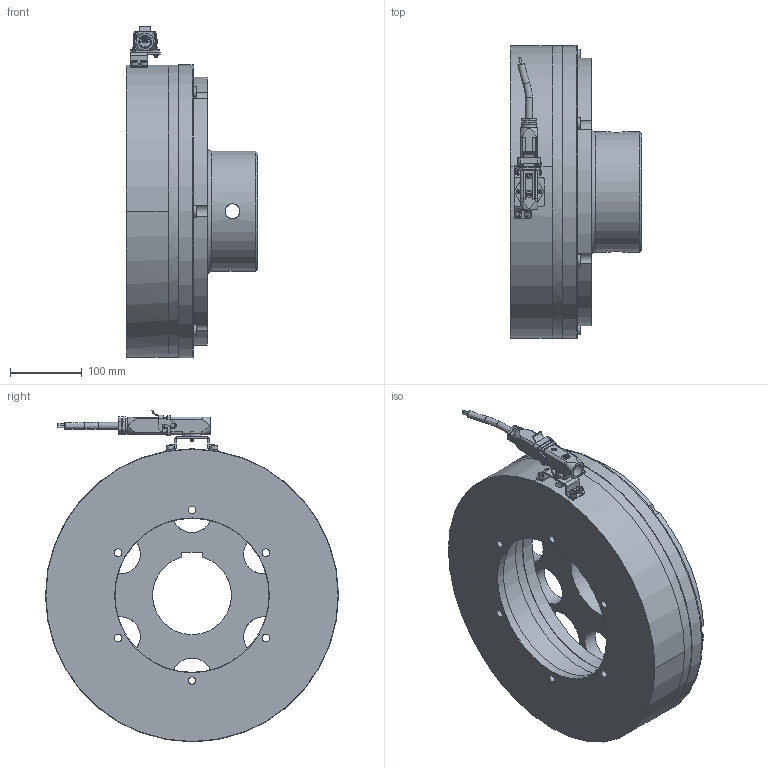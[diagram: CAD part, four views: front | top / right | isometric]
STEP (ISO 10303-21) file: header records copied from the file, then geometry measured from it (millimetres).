
FILE_DESCRIPTION(/* description */ (''),/* implementation_level */ '2;1');
FILE_NAME(/* name */ 'X:\INVENTOR\DISEGNI\08_Freni_Friz_Elettmag_Monodisco\08_28 EMFL_DF\EMFL_DF STEP\08_28_400_12 EMFL400_DF-C-ME_S@STEP.stp',/* time_stamp */ '2018-04-23T10:58:52+02:00',/* author */ ('stefano'),/* organization */ (''),/* preprocessor_version */ 'ST-DEVELOPER v17',/* originating_system */ 'Autodesk Inventor 2018',/* authorisation */ '');
FILE_SCHEMA (('AUTOMOTIVE_DESIGN { 1 0 10303 214 3 1 1 }'));
Products named in the file (1): 08_28_400_12 EMFL400_DF-C-ME - Spina_Substitute_1
Bounding box: 183 x 409 x 462.92 mm (x, y, z)
Volume: 7980972.1 mm3; surface area: 1047664.7 mm2
Topology: 3 solids, 3 shells, 1510 faces, 4295 edges, 2851 vertices
Faces by surface type: plane 921, cylinder 477, cone 61, torus 27, bspline 21, sphere 3
Full cylindrical faces by diameter (mm): 0.753 x1, 0.986 x1, 1.05 x1, 2.5 x2, 3 x3, 3.2 x1, 3.25 x2, 3.59 x1, 4 x3, 4.675 x2, 4.8 x2, 5.5 x2, 6 x6, 6.2 x1, 7 x1, 8.2 x2, 9.5 x2, 10 x4, 10.106 x6, 10.5 x6, 12 x1, 13.5 x2, 16 x14, 17.8 x12, 18 x19, 18.6 x1, 20.6 x1, 20.752 x2, 55 x6, 68 x6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
Entity records: 52493 total; most frequent: CARTESIAN_POINT 10375, DIRECTION 8584, ORIENTED_EDGE 8564, EDGE_CURVE 4282, AXIS2_PLACEMENT_3D 3038, VERTEX_POINT 2851, LINE 2508, VECTOR 2508
